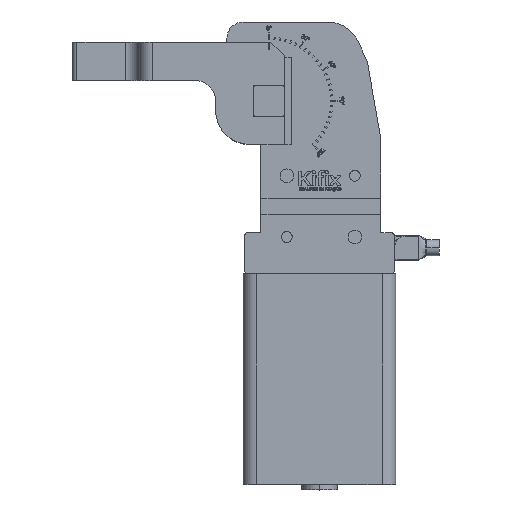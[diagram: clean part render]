
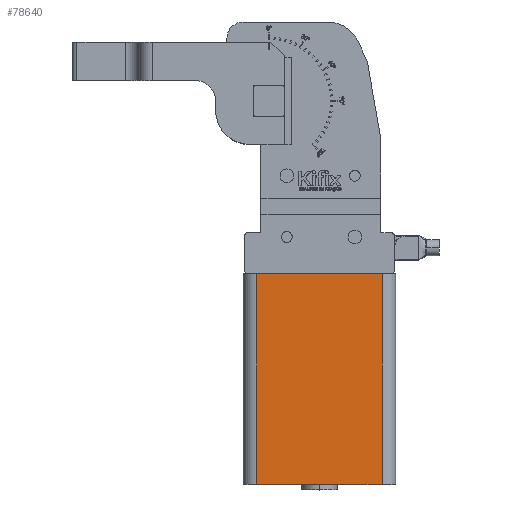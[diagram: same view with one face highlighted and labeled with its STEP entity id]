
A CAD part, top view. The second image highlights one B-rep face of the part: STEP entity #78640.
In plain terms, the highlighted planar face has unit normal (0, 0, 1).
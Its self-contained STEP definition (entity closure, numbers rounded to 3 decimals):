
#1856 = VERTEX_POINT ( 'NONE', #16998 ) ;
#1906 = VERTEX_POINT ( 'NONE', #17021 ) ;
#1914 = VERTEX_POINT ( 'NONE', #17025 ) ;
#1923 = VERTEX_POINT ( 'NONE', #17029 ) ;
#16998 = CARTESIAN_POINT ( 'NONE',  ( 46., 155., 25. ) ) ;
#17021 = CARTESIAN_POINT ( 'NONE',  ( -46., 0., 25. ) ) ;
#17025 = CARTESIAN_POINT ( 'NONE',  ( 46., 0., 25. ) ) ;
#17029 = CARTESIAN_POINT ( 'NONE',  ( -46., 155., 25. ) ) ;
#22549 = EDGE_LOOP ( 'NONE', ( #59301, #59307, #59306, #59312 ) ) ;
#30733 = AXIS2_PLACEMENT_3D ( 'NONE', #56641, #56651, #56652 ) ;
#31855 = LINE ( 'NONE', #33541, #31858 ) ;
#31858 = VECTOR ( 'NONE', #33536, 1000. ) ;
#31887 = LINE ( 'NONE', #33574, #31893 ) ;
#31891 = LINE ( 'NONE', #33576, #31897 ) ;
#31893 = VECTOR ( 'NONE', #33575, 1000. ) ;
#31895 = LINE ( 'NONE', #33578, #31902 ) ;
#31897 = VECTOR ( 'NONE', #33577, 1000. ) ;
#31902 = VECTOR ( 'NONE', #33579, 1000. ) ;
#33536 = DIRECTION ( 'NONE',  ( 1., 0., 0. ) ) ;
#33541 = CARTESIAN_POINT ( 'NONE',  ( -56., 0., 25. ) ) ;
#33574 = CARTESIAN_POINT ( 'NONE',  ( 46., 155., 25. ) ) ;
#33575 = DIRECTION ( 'NONE',  ( 0., 1., 0. ) ) ;
#33576 = CARTESIAN_POINT ( 'NONE',  ( -56., 155., 25. ) ) ;
#33577 = DIRECTION ( 'NONE',  ( 1., 0., 0. ) ) ;
#33578 = CARTESIAN_POINT ( 'NONE',  ( -46., 155., 25. ) ) ;
#33579 = DIRECTION ( 'NONE',  ( 0., -1., 0. ) ) ;
#56641 = CARTESIAN_POINT ( 'NONE',  ( -56., 155., 25. ) ) ;
#56646 = PLANE ( 'NONE',  #30733 ) ;
#56651 = DIRECTION ( 'NONE',  ( 0., 0., -1. ) ) ;
#56652 = DIRECTION ( 'NONE',  ( -1., 0., 0. ) ) ;
#59301 = ORIENTED_EDGE ( 'NONE', *, *, #70243, .T. ) ;
#59306 = ORIENTED_EDGE ( 'NONE', *, *, #70271, .F. ) ;
#59307 = ORIENTED_EDGE ( 'NONE', *, *, #70269, .T. ) ;
#59312 = ORIENTED_EDGE ( 'NONE', *, *, #70273, .T. ) ;
#67215 = FACE_OUTER_BOUND ( 'NONE', #22549, .T. ) ;
#70243 = EDGE_CURVE ( 'NONE', #1906, #1914, #31855, .T. ) ;
#70269 = EDGE_CURVE ( 'NONE', #1914, #1856, #31887, .T. ) ;
#70271 = EDGE_CURVE ( 'NONE', #1923, #1856, #31891, .T. ) ;
#70273 = EDGE_CURVE ( 'NONE', #1923, #1906, #31895, .T. ) ;
#78640 = ADVANCED_FACE ( 'NONE', ( #67215 ), #56646, .F. ) ;
